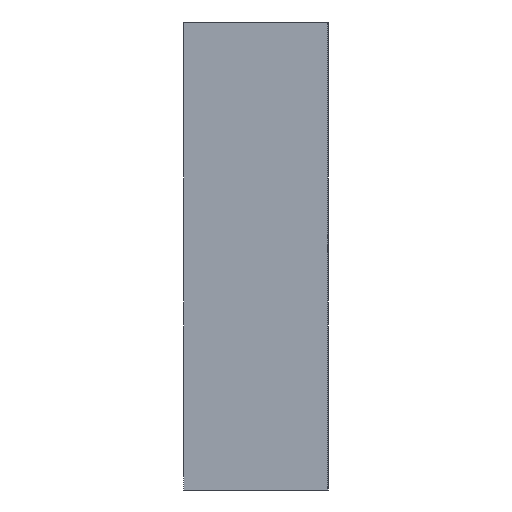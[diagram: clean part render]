
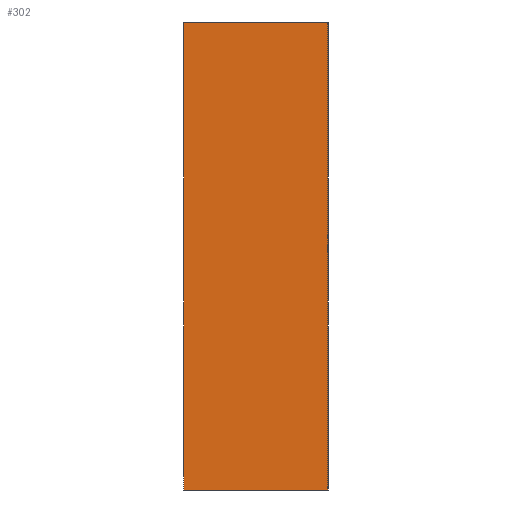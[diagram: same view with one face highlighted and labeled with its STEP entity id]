
A CAD part, left-side view. The second image highlights one B-rep face of the part: STEP entity #302.
In plain terms, the highlighted planar face has unit normal (-1, 0, 0).
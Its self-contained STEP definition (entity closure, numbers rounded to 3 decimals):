
#2 = VECTOR ( 'NONE', #361, 1000. ) ;
#14 = EDGE_LOOP ( 'NONE', ( #144, #326, #39, #320 ) ) ;
#17 = PLANE ( 'NONE',  #209 ) ;
#39 = ORIENTED_EDGE ( 'NONE', *, *, #350, .F. ) ;
#69 = CARTESIAN_POINT ( 'NONE',  ( -25., 4., 6.5 ) ) ;
#78 = CARTESIAN_POINT ( 'NONE',  ( -25., 4., -6.5 ) ) ;
#81 = VERTEX_POINT ( 'NONE', #351 ) ;
#84 = CARTESIAN_POINT ( 'NONE',  ( -25., 0., -6.5 ) ) ;
#105 = CARTESIAN_POINT ( 'NONE',  ( -25., 4., -6.5 ) ) ;
#133 = FACE_OUTER_BOUND ( 'NONE', #14, .T. ) ;
#139 = DIRECTION ( 'NONE',  ( 0., 0., 1. ) ) ;
#144 = ORIENTED_EDGE ( 'NONE', *, *, #243, .T. ) ;
#150 = LINE ( 'NONE', #294, #204 ) ;
#164 = EDGE_CURVE ( 'NONE', #81, #232, #400, .T. ) ;
#204 = VECTOR ( 'NONE', #235, 1000. ) ;
#209 = AXIS2_PLACEMENT_3D ( 'NONE', #228, #364, #260 ) ;
#228 = CARTESIAN_POINT ( 'NONE',  ( -25., 4., -6.5 ) ) ;
#232 = VERTEX_POINT ( 'NONE', #296 ) ;
#233 = LINE ( 'NONE', #78, #373 ) ;
#235 = DIRECTION ( 'NONE',  ( 0., 0., 1. ) ) ;
#243 = EDGE_CURVE ( 'NONE', #247, #232, #150, .T. ) ;
#247 = VERTEX_POINT ( 'NONE', #84 ) ;
#260 = DIRECTION ( 'NONE',  ( 0., 0., -1. ) ) ;
#294 = CARTESIAN_POINT ( 'NONE',  ( -25., 0., -6.5 ) ) ;
#296 = CARTESIAN_POINT ( 'NONE',  ( -25., 0., 6.5 ) ) ;
#302 = ADVANCED_FACE ( 'NONE', ( #133 ), #17, .F. ) ;
#320 = ORIENTED_EDGE ( 'NONE', *, *, #340, .T. ) ;
#326 = ORIENTED_EDGE ( 'NONE', *, *, #164, .F. ) ;
#327 = CARTESIAN_POINT ( 'NONE',  ( -25., 4., -6.5 ) ) ;
#329 = DIRECTION ( 'NONE',  ( 0., -1., 0. ) ) ;
#331 = VERTEX_POINT ( 'NONE', #105 ) ;
#340 = EDGE_CURVE ( 'NONE', #331, #247, #402, .T. ) ;
#350 = EDGE_CURVE ( 'NONE', #331, #81, #233, .T. ) ;
#351 = CARTESIAN_POINT ( 'NONE',  ( -25., 4., 6.5 ) ) ;
#361 = DIRECTION ( 'NONE',  ( 0., -1., 0. ) ) ;
#364 = DIRECTION ( 'NONE',  ( 1., 0., 0. ) ) ;
#373 = VECTOR ( 'NONE', #139, 1000. ) ;
#376 = VECTOR ( 'NONE', #329, 1000. ) ;
#400 = LINE ( 'NONE', #69, #2 ) ;
#402 = LINE ( 'NONE', #327, #376 ) ;
